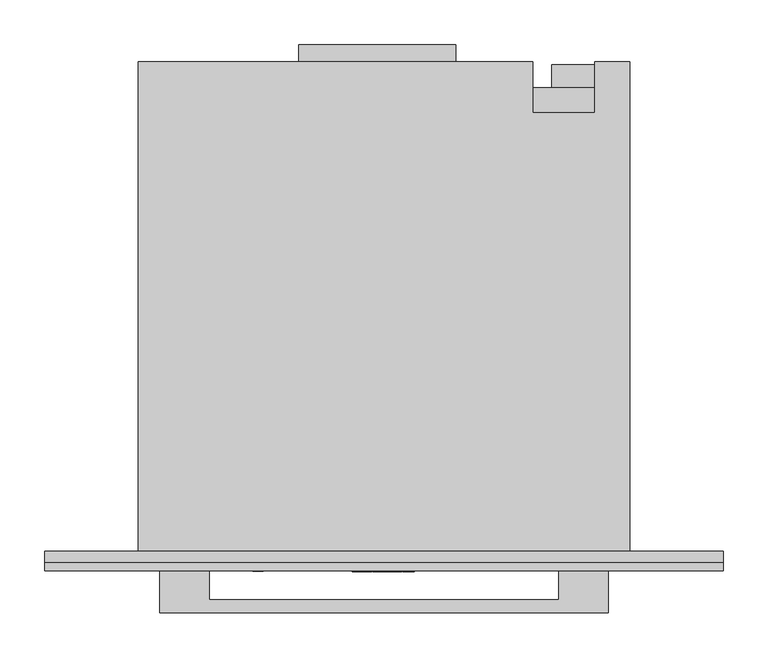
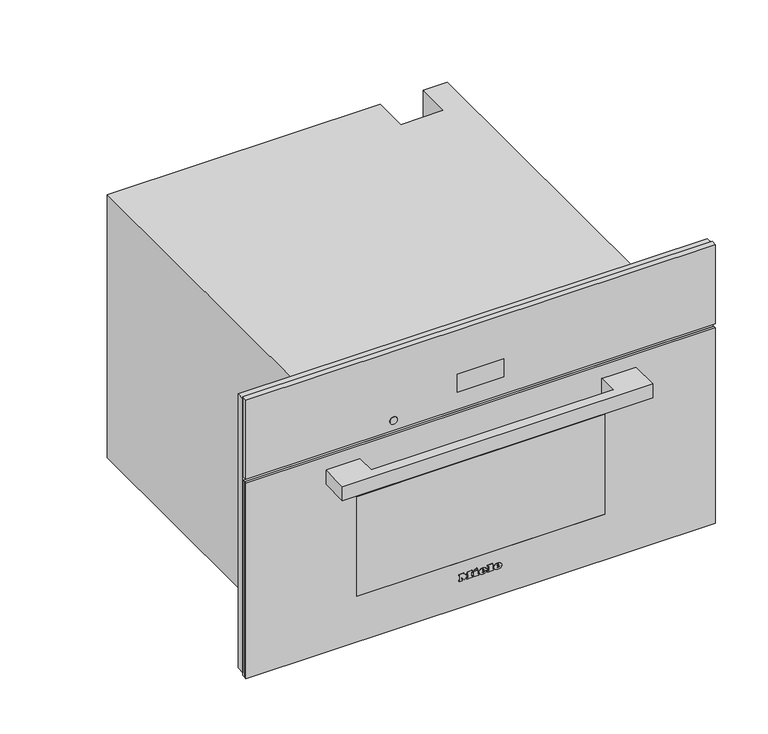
"""IFC4 building model written with IfcOpenShell, lengths in millimetres: proxy geometry, 11876250_USA_DGC7470_GRGR : 23747032_USA_11876250_DGC7470_GRGR."""

import ifcopenshell
import ifcopenshell.guid

model = None  # the IFC model being written
_history = None  # IfcOwnerHistory: only IFC2X3 demands one
_inside = {}  # id of a spatial element -> (the spatial element, [elements in it])
_under = {}  # id of a project, library or spatial element -> (it, [spatial elements below it])
_declared = {}  # id of a project -> (the project, [libraries it declares])
_typed = {}  # id of a type object -> (the type object, [elements of that type])
_made_of = {}  # id of a material, layer set ... -> (it, [elements and type objects made of it])


def new_model(schema):
    """Start an empty IFC model of exactly this schema.

    Asked for "IFC4X3", IfcOpenShell would pick the latest addendum, in which some entities
    have other attributes; the version numbers below select the first issue.
    IFC2X3 requires an IfcOwnerHistory on every rooted entity: one is made here for all.
    """
    global model, _history
    if schema == "IFC4X3":
        model = ifcopenshell.file(schema_version=(4, 3, 0, 0))
    else:
        model = ifcopenshell.file(schema=schema)
    _inside.clear()
    _under.clear()
    _declared.clear()
    _typed.clear()
    _made_of.clear()
    _history = None
    if model.schema == "IFC2X3":
        org = make("IfcOrganization", Name="unknown")
        user = make(
            "IfcPersonAndOrganization",
            ThePerson=make("IfcPerson", FamilyName="unknown"),
            TheOrganization=org,
        )
        app = make(
            "IfcApplication",
            ApplicationDeveloper=org,
            Version="unknown",
            ApplicationFullName="unknown",
            ApplicationIdentifier="unknown",
        )
        _history = make(
            "IfcOwnerHistory",
            OwningUser=user,
            OwningApplication=app,
            ChangeAction="ADDED",
            CreationDate=0,
        )
    return model


def make(cls, **values):
    """One entity of the class cls with the attributes given. An attribute that is None is left unset."""
    return model.create_entity(
        cls, **{name: value for name, value in values.items() if value is not None}
    )


def rooted(cls, **values):
    """An entity with a GlobalId (a new one), such as an element, a storey or a relation."""
    return make(cls, GlobalId=ifcopenshell.guid.new(), OwnerHistory=_history, **values)


def si_unit(unit_type, name, prefix=None):
    """IfcSIUnit, for example si_unit("LENGTHUNIT", "METRE", prefix="MILLI")."""
    return make("IfcSIUnit", UnitType=unit_type, Prefix=prefix, Name=name)


def assignment(units):
    """IfcUnitAssignment: the units of a project."""
    return None if units is None else make("IfcUnitAssignment", Units=units)


def point(xyz):
    """IfcCartesianPoint."""
    return None if xyz is None else make("IfcCartesianPoint", Coordinates=xyz)


def direction(xyz):
    """IfcDirection."""
    return None if xyz is None else make("IfcDirection", DirectionRatios=xyz)


def frame(location, z_axis=None, x_axis=None):
    """IfcAxis2Placement3D, a coordinate frame: its origin and axes. An axis left out is left unset."""
    return make(
        "IfcAxis2Placement3D",
        Location=point(location),
        Axis=direction(z_axis),
        RefDirection=direction(x_axis),
    )


def frame_2d(location, x_axis=None):
    """IfcAxis2Placement2D, a coordinate frame in the plane: its origin and x axis."""
    return make(
        "IfcAxis2Placement2D", Location=point(location), RefDirection=direction(x_axis)
    )


def origin():
    """The frame at (0, 0, 0) with its axes left unset."""
    return frame((0.0, 0.0, 0.0))


def place(relative_to, where):
    """IfcLocalPlacement: puts the frame where relative to a parent placement (None: the world)."""
    return make(
        "IfcLocalPlacement", PlacementRelTo=relative_to, RelativePlacement=where
    )


def context(
    kind, dimensions, precision=None, world=None, true_north=None, identifier=None
):
    """IfcGeometricRepresentationContext, for example the 3D "Model" context."""
    return make(
        "IfcGeometricRepresentationContext",
        ContextIdentifier=identifier,
        ContextType=kind,
        CoordinateSpaceDimension=dimensions,
        Precision=precision,
        WorldCoordinateSystem=world,
        TrueNorth=true_north,
    )


def project(units=None, contexts=None):
    """IfcProject with its units and contexts."""
    return rooted(
        "IfcProject",
        Name="project",
        RepresentationContexts=contexts,
        UnitsInContext=assignment(units),
    )


def spatial(cls, under=None, at=None, **own):
    """A site, building, storey or space (cls), placed at a placement, below another one or the project."""
    s = rooted(cls, ObjectPlacement=at, **own)
    if under is not None:
        _under.setdefault(under.id(), (under, []))[1].append(s)
    return s


def polyline(points):
    """IfcPolyline through the points."""
    return make("IfcPolyline", Points=[point(p) for p in points])


def circle_curve(where, radius):
    """IfcCircle in the frame where."""
    return make("IfcCircle", Position=where, Radius=radius)


def ellipse_curve(where, semi_axis1, semi_axis2):
    """IfcEllipse in the frame where."""
    return make(
        "IfcEllipse", Position=where, SemiAxis1=semi_axis1, SemiAxis2=semi_axis2
    )


def trimmed(basis, trim1, trim2, sense, master):
    """IfcTrimmedCurve: the piece of a basis curve between two trims."""
    return make(
        "IfcTrimmedCurve",
        BasisCurve=basis,
        Trim1=trim1,
        Trim2=trim2,
        SenseAgreement=sense,
        MasterRepresentation=master,
    )


def segment(curve, same_sense, transition):
    """IfcCompositeCurveSegment."""
    return make(
        "IfcCompositeCurveSegment",
        Transition=transition,
        SameSense=same_sense,
        ParentCurve=curve,
    )


def composite_curve(segments, self_intersect=None):
    """IfcCompositeCurve: segments joined end to end."""
    return make("IfcCompositeCurve", Segments=segments, SelfIntersect=self_intersect)


def outline(outer, holes=None, kind="AREA"):
    """IfcArbitraryClosedProfileDef: a profile drawn as a closed curve; with holes, ...WithVoids."""
    if holes is None:
        return make("IfcArbitraryClosedProfileDef", ProfileType=kind, OuterCurve=outer)
    return make(
        "IfcArbitraryProfileDefWithVoids",
        ProfileType=kind,
        OuterCurve=outer,
        InnerCurves=holes,
    )


def extrude(swept, where, along, depth):
    """IfcExtrudedAreaSolid: the profile swept, set in the frame where, extruded along a direction by depth."""
    return make(
        "IfcExtrudedAreaSolid",
        SweptArea=swept,
        Position=where,
        ExtrudedDirection=direction(along),
        Depth=depth,
    )


def faces_of(points, faces, orient=None, outer=None):
    """IfcFace entities. A face is a list of loops; a loop is a list of indices into points, from 0.

    orient and outer hold one flag for each loop. By default every Orientation is true, the
    first loop of a face is its IfcFaceOuterBound and the others are IfcFaceBound.
    """
    made = []
    for i, loops in enumerate(faces):
        bounds = []
        for j, loop in enumerate(loops):
            is_outer = j == 0 if outer is None else outer[i][j]
            bounds.append(
                make(
                    "IfcFaceOuterBound" if is_outer else "IfcFaceBound",
                    Bound=make("IfcPolyLoop", Polygon=[points[k] for k in loop]),
                    Orientation=True if orient is None else orient[i][j],
                )
            )
        made.append(make("IfcFace", Bounds=bounds))
    return made


def faceted_brep(points, faces, orient=None, outer=None, voids=None):
    """IfcFacetedBrep: a solid bounded by flat faces; with voids (closed shells), ...WithVoids."""
    shared = [point(p) for p in points]
    hull = make("IfcClosedShell", CfsFaces=faces_of(shared, faces, orient, outer))
    if voids is None:
        return make("IfcFacetedBrep", Outer=hull)
    return make(
        "IfcFacetedBrepWithVoids",
        Outer=hull,
        Voids=[
            make(cls, CfsFaces=faces_of(shared, fs, o, b)) for cls, fs, o, b in voids
        ],
    )


def shape(context_of_items, identifier, shape_type, items):
    """IfcShapeRepresentation: the items that make up one representation, for example the "Body"."""
    return make(
        "IfcShapeRepresentation",
        ContextOfItems=context_of_items,
        RepresentationIdentifier=identifier,
        RepresentationType=shape_type,
        Items=items,
    )


def source(mapping_origin, context_of_items, identifier, shape_type, items):
    """IfcRepresentationMap: a shape defined once, which mapped items show again and again."""
    return make(
        "IfcRepresentationMap",
        MappingOrigin=mapping_origin,
        MappedRepresentation=shape(context_of_items, identifier, shape_type, items),
    )


def transform(
    local_origin,
    x_axis=None,
    y_axis=None,
    z_axis=None,
    scale=None,
    scale2=None,
    scale3=None,
    uniform=True,
):
    """IfcCartesianTransformationOperator3D, or its non-uniform kind. x_axis, y_axis, z_axis: its Axis1, 2, 3."""
    if uniform:
        return make(
            "IfcCartesianTransformationOperator3D",
            Axis1=direction(x_axis),
            Axis2=direction(y_axis),
            LocalOrigin=point(local_origin),
            Scale=scale,
            Axis3=direction(z_axis),
        )
    return make(
        "IfcCartesianTransformationOperator3DnonUniform",
        Axis1=direction(x_axis),
        Axis2=direction(y_axis),
        LocalOrigin=point(local_origin),
        Scale=scale,
        Axis3=direction(z_axis),
        Scale2=scale2,
        Scale3=scale3,
    )


def mapped(mapping_source, mapping_target):
    """IfcMappedItem: shows the shape of a source again, moved by a transform."""
    return make(
        "IfcMappedItem", MappingSource=mapping_source, MappingTarget=mapping_target
    )


def made_of(thing, what):
    """Note that an element or type object is made of a material, layer set ...; save() writes the relation."""
    if what is not None:
        _made_of.setdefault(what.id(), (what, []))[1].append(thing)
    return thing


def element(
    cls,
    number,
    at=None,
    inside=None,
    cuts=None,
    type_object=None,
    material=None,
    context=None,
    identifier="Body",
    shape_type=None,
    held_by="IfcProductDefinitionShape",
    body=None,
    shapes=None,
    **own,
):
    """One element of the class cls, such as IfcWall. Its Tag is "e" and its number.

    at: its placement. inside: the storey or other place that contains it. cuts: it is an
    opening in that element (IfcRelVoidsElement). A single representation is given by context,
    identifier, shape_type and body (its items); several are given by shapes. held_by: the class
    of the entity that holds the representations. save() writes the other relations.
    """
    e = rooted(cls, Tag="e%d" % number, ObjectPlacement=at, **own)
    if body is not None:
        shapes = [shape(context, identifier, shape_type, body)]
    if shapes is not None:
        e.Representation = make(held_by, Representations=shapes)
    if inside is not None:
        _inside.setdefault(inside.id(), (inside, []))[1].append(e)
    if cuts is not None:
        rooted(
            "IfcRelVoidsElement", RelatingBuildingElement=cuts, RelatedOpeningElement=e
        )
    if type_object is not None:
        _typed.setdefault(type_object.id(), (type_object, []))[1].append(e)
    return made_of(e, material)


def aggregate(whole, parts):
    """IfcRelAggregates: a whole, such as a stair, and the parts it consists of."""
    return rooted("IfcRelAggregates", RelatingObject=whole, RelatedObjects=parts)


def save(model, path):
    """Write the relations noted so far, then the file.

    IfcRelAggregates (storeys below a building ...), IfcRelContainedInSpatialStructure (elements
    in a storey), IfcRelDefinesByType, IfcRelAssociatesMaterial and IfcRelDeclares: one each for
    every whole, place, type object, material and project.
    """
    for whole, parts in _under.values():
        aggregate(whole, parts)
    for where, things in _inside.values():
        rooted(
            "IfcRelContainedInSpatialStructure",
            RelatedElements=things,
            RelatingStructure=where,
        )
    for kind, things in _typed.values():
        rooted("IfcRelDefinesByType", RelatedObjects=things, RelatingType=kind)
    for what, things in _made_of.values():
        rooted("IfcRelAssociatesMaterial", RelatedObjects=things, RelatingMaterial=what)
    for by, libraries in _declared.values():
        rooted("IfcRelDeclares", RelatingContext=by, RelatedDefinitions=libraries)
    model.write(path)


def plane_surface(at):
    """IfcPlane: the flat surface through the origin of the frame at, square to its z axis."""
    return make("IfcPlane", Position=at)


def cylinder_surface(at, radius):
    """IfcCylindricalSurface: all points at the distance radius from the z axis of the frame at."""
    return make("IfcCylindricalSurface", Position=at, Radius=radius)


def revolved_surface(curve, axis_point, axis_direction):
    """IfcSurfaceOfRevolution: the curve turned about the line through axis_point along axis_direction."""
    return make(
        "IfcSurfaceOfRevolution",
        SweptCurve=make("IfcArbitraryOpenProfileDef", ProfileType="CURVE", Curve=curve),
        AxisPosition=make("IfcAxis1Placement", Location=point(axis_point), Axis=direction(axis_direction)),
    )


def extruded_surface(curve, direction_of_extrusion, depth):
    """IfcSurfaceOfLinearExtrusion: the curve pushed along a direction by depth."""
    return make(
        "IfcSurfaceOfLinearExtrusion",
        SweptCurve=make("IfcArbitraryOpenProfileDef", ProfileType="CURVE", Curve=curve),
        ExtrudedDirection=direction(direction_of_extrusion),
        Depth=depth,
    )


def advanced_brep(points, edges, surfaces, faces):
    """IfcAdvancedBrep: a solid bounded by faces that lie on surfaces and meet in shared edges.

    An edge is (start, end): straight between two places in points (the first is 0);
    or (start, end, curve); or (start, end, curve, False) where it runs against its curve.
    A face is (place in surfaces, loops), or (place, loops, False) where it looks against
    its surface's normal. A loop lists edges by number (the first is 1), with a minus sign
    where the edge is run from its end to its start. The first loop is the outer one.
    """
    corners = [point(p) for p in points]
    vertices = [make("IfcVertexPoint", VertexGeometry=c) for c in corners]
    made = []
    for start, end, *more in edges:
        made.append(
            make(
                "IfcEdgeCurve",
                EdgeStart=vertices[start],
                EdgeEnd=vertices[end],
                EdgeGeometry=more[0] if more else make("IfcPolyline", Points=[corners[start], corners[end]]),
                SameSense=more[1] if len(more) > 1 else True,
            )
        )
    hull = []
    for where, loops, *sense in faces:
        bounds = []
        for j, loop in enumerate(loops):
            ring = [make("IfcOrientedEdge", EdgeElement=made[abs(k) - 1], Orientation=k > 0) for k in loop]
            bounds.append(
                make(
                    "IfcFaceOuterBound" if j == 0 else "IfcFaceBound",
                    Bound=make("IfcEdgeLoop", EdgeList=ring),
                    Orientation=True,
                )
            )
        hull.append(make("IfcAdvancedFace", Bounds=bounds, FaceSurface=surfaces[where], SameSense=sense[0] if sense else True))
    return make("IfcAdvancedBrep", Outer=make("IfcClosedShell", CfsFaces=hull))


def specialty_equipment_d32a2233(model_context):
    return source(origin(), model_context, "Body", "SolidModel", [
        faceted_brep([(378.5, -13.0, 476.0), (-378.5, -13.0, 476.0), (-378.5, -13.0, 9.0), (-272.5, -13.0, 9.0), (-272.5, -13.0, 344.0), (272.5, -13.0, 344.0), (272.5, -13.0, 9.0), (378.5, -13.0, 9.0), (378.5, 0.0, 476.0), (378.5, 0.0, 9.0), (-378.5, 0.0, 9.0), (-378.5, 0.0, 476.0), (231.0, 0.0, 58.0), (231.0, 0.0, 286.0), (-231.0, 0.0, 286.0), (-231.0, 0.0, 58.0), (272.5, -5.0, 9.0), (-272.5, -5.0, 9.0), (-272.5, -5.0, 344.0), (272.5, -5.0, 344.0), (231.0, -5.0, 286.0), (231.0, -5.0, 58.0), (-231.0, -5.0, 58.0), (-231.0, -5.0, 286.0)], [[[0, 1, 2, 3, 4, 5, 6, 7]], [[8, 9, 10, 11], [12, 13, 14, 15]], [[1, 0, 8, 11]], [[2, 1, 11, 10]], [[10, 9, 7, 6, 16, 17, 3, 2]], [[0, 7, 9, 8]], [[18, 19, 5, 4]], [[18, 4, 3, 17]], [[5, 19, 16, 6]], [[19, 18, 17, 16], [20, 21, 22, 23]], [[20, 13, 12, 21]], [[21, 12, 15, 22]], [[22, 15, 14, 23]], [[13, 20, 23, 14]]]),
        extrude(outline(polyline([(-95.0, 565.0), (80.0, 565.0), (80.0, 546.0), (-95.0, 546.0), (-95.0, 565.0)])), frame((0.0, 0.0, 260.0), z_axis=(0.0, 0.0, 1.0), x_axis=(1.0, 0.0, 0.0)), (0.0, 0.0, 1.0), 1.0),
        extrude(outline(polyline([(224.8383288, 537.0), (231.1236409, 537.0), (231.1236409, 526.9492425), (229.8571792, 526.9492425), (229.8571792, 535.7409796), (224.8383288, 535.7409796), (224.8383288, 537.0)])), frame((0.0, 0.0, 132.0), z_axis=(0.0, 0.0, 1.0), x_axis=(1.0, 0.0, 0.0)), (0.0, 0.0, 1.0), 1.0),
        extrude(outline(polyline([(233.0, 537.0), (240.3797826, 537.0), (240.3797826, 526.9503529), (233.15422, 526.9503529), (233.15422, 528.220938), (239.1355215, 528.220938), (239.1355215, 531.1975645), (233.4863097, 531.1975645), (233.4863097, 532.449242), (239.1355215, 532.449242), (239.1355215, 535.7448633), (233.0, 535.7448633), (233.0, 537.0)])), frame((0.0, 0.0, 132.0), z_axis=(0.0, 0.0, 1.0), x_axis=(1.0, 0.0, 0.0)), (0.0, 0.0, 1.0), 1.0),
        extrude(outline(composite_curve([segment(trimmed(circle_curve(frame_2d((233.0, 532.0)), 7.5), [point((225.5, 532.0))], [point((240.5, 532.0))], False, "CARTESIAN"), True, "CONTINUOUS"), segment(trimmed(circle_curve(frame_2d((233.0, 532.0)), 7.5), [point((240.5, 532.0))], [point((225.5, 532.0))], False, "CARTESIAN"), True, "CONTINUOUS")], self_intersect=False)), frame((0.0, 0.0, 133.0), z_axis=(0.0, 0.0, 1.0), x_axis=(1.0, 0.0, 0.0)), (0.0, 0.0, 1.0), 30.0),
        extrude(outline(polyline([(266.0, 517.0), (187.0, 517.0), (187.0, 543.0), (266.0, 543.0), (266.0, 517.0)])), frame((0.0, 0.0, 163.0), z_axis=(0.0, 0.0, 1.0), x_axis=(1.0, 0.0, 0.0)), (0.0, 0.0, 1.0), 111.0),
        faceted_brep([(-274.0, 546.0, 0.0), (-274.0, 546.0, 448.0), (166.0, 546.0, 448.0), (166.0, 546.0, 0.0), (235.0, 546.0, 448.0), (274.0, 546.0, 448.0), (274.0, 546.0, 338.0), (235.0, 546.0, 338.0), (274.0, 0.0, 448.0), (-274.0, 0.0, 448.0), (-274.0, 0.0, 0.0), (274.0, 0.0, 0.0), (231.0, 0.0, 286.0), (231.0, 0.0, 58.0), (-231.0, 0.0, 58.0), (-231.0, 0.0, 286.0), (235.0, 489.0, 448.0), (166.0, 489.0, 448.0), (166.0, 517.0, 0.0), (274.0, 517.0, 0.0), (274.0, 517.0, 338.0), (231.0, 411.0, 286.0), (-231.0, 411.0, 286.0), (-231.0, 411.0, 58.0), (231.0, 411.0, 58.0), (235.0, 489.0, 337.0), (166.0, 489.0, 337.0), (166.0, 517.0, 337.0), (235.0, 517.0, 337.0), (235.0, 517.0, 338.0)], [[[0, 1, 2, 3]], [[4, 5, 6, 7]], [[8, 9, 10, 11], [12, 13, 14, 15]], [[9, 8, 5, 4, 16, 17, 2, 1]], [[1, 0, 10, 9]], [[11, 10, 0, 3, 18, 19]], [[8, 11, 19, 20, 6, 5]], [[21, 22, 23, 24]], [[21, 24, 13, 12]], [[24, 23, 14, 13]], [[23, 22, 15, 14]], [[22, 21, 12, 15]], [[16, 25, 26, 17]], [[17, 26, 27, 18, 3, 2]], [[26, 25, 28, 27]], [[25, 16, 4, 7, 29, 28]], [[29, 20, 19, 18, 27, 28]], [[20, 29, 7, 6]]]),
        advanced_brep(
        [(26.2998, -23.0, 52.7018), (26.2998, -23.0, 53.8532), (33.9264, -23.0, 53.8532), (20.6568, -23.0, 53.8532), (23.7918, -23.0, 50.0), (33.7326, -23.0, 52.7018), (30.2898, -23.0, 52.7018), (27.5766, -23.0, 51.425), (26.2998, -23.0, 55.3124), (26.2998, -23.0, 56.555), (28.2492, -23.0, 56.555), (28.2492, -23.0, 55.3124), (26.2998, -22.0, 52.7018), (27.5766, -22.0, 51.425), (30.2898, -22.0, 52.7018), (33.7326, -22.0, 52.7018), (23.7918, -22.0, 50.0), (20.6568, -22.0, 53.8532), (33.9264, -22.0, 53.8532), (26.2998, -22.0, 53.8532), (26.2998, -22.0, 55.3124), (28.2492, -22.0, 55.3124), (28.2492, -22.0, 56.555), (26.2998, -22.0, 56.555)],
        [
            (0, 1),
            (1, 2),
            (2, 3, ellipse_curve(frame((27.2916, -23.0, 53.8532), z_axis=(0.0, -1.0, 0.0), x_axis=(-1.0, 0.0, 0.0)), 6.6348, 5.4834)),
            (3, 4, circle_curve(frame((25.0686622, -23.0, 54.2408), z_axis=(0.0, -1.0, 0.0), x_axis=(0.0, 0.0, -1.0)), 4.4288556)),
            (4, 5, circle_curve(frame((27.1587808, -23.0, 57.2504), z_axis=(0.0, -1.0, 0.0), x_axis=(0.0, 0.0, -1.0)), 7.9940516)),
            (5, 6),
            (6, 7, circle_curve(frame((28.1338588, -23.0, 53.762), z_axis=(0.0, 1.0, 0.0), x_axis=(0.0, 0.0, -1.0)), 2.4025208)),
            (7, 0, circle_curve(frame((27.5766, -23.0, 52.7018), z_axis=(0.0, 1.0, 0.0), x_axis=(0.0, 0.0, -1.0)), 1.2768)),
            (8, 9),
            (9, 10, circle_curve(frame((27.2745, -23.0, 56.555), z_axis=(0.0, 1.0, 0.0), x_axis=(0.0, 0.0, -1.0)), 0.9747)),
            (10, 11),
            (11, 8),
            (12, 13, circle_curve(frame((27.5766, -22.0, 52.7018), z_axis=(0.0, -1.0, 0.0), x_axis=(0.0, 0.0, -1.0)), 1.2768)),
            (13, 14, circle_curve(frame((28.1338588, -22.0, 53.762), z_axis=(0.0, -1.0, 0.0), x_axis=(0.0, 0.0, -1.0)), 2.4025208)),
            (14, 15),
            (15, 16, circle_curve(frame((27.1587808, -22.0, 57.2504), z_axis=(0.0, 1.0, 0.0), x_axis=(0.0, 0.0, -1.0)), 7.9940516)),
            (16, 17, circle_curve(frame((25.0686622, -22.0, 54.2408), z_axis=(0.0, 1.0, 0.0), x_axis=(0.0, 0.0, -1.0)), 4.4288556)),
            (17, 18, ellipse_curve(frame((27.2916, -22.0, 53.8532), z_axis=(0.0, 1.0, 0.0), x_axis=(-1.0, 0.0, 0.0)), 6.6348, 5.4834)),
            (18, 19),
            (19, 12),
            (20, 21),
            (21, 22),
            (22, 23, circle_curve(frame((27.2745, -22.0, 56.555), z_axis=(0.0, -1.0, 0.0), x_axis=(0.0, 0.0, -1.0)), 0.9747)),
            (23, 20),
            (0, 12),
            (19, 1),
            (18, 2),
            (5, 15),
            (14, 6),
            (17, 3),
            (13, 7),
            (16, 4),
            (8, 20),
            (23, 9),
            (22, 10),
            (21, 11),
        ],
        [
            plane_surface(frame((26.2998, -23.0, 53.8532), z_axis=(0.0, -1.0, 0.0), x_axis=(0.0, 0.0, 1.0))),
            plane_surface(frame((26.2998, -22.0, 53.8532), z_axis=(0.0, 1.0, 0.0), x_axis=(0.0, 0.0, -1.0))),
            plane_surface(frame((26.2998, -23.0, 52.7018), z_axis=(1.0, 0.0, 0.0), x_axis=(0.0, 1.0, 0.0))),
            plane_surface(frame((26.2998, -23.0, 53.8532), z_axis=(0.0, 0.0, -1.0), x_axis=(0.0, 1.0, 0.0))),
            plane_surface(frame((33.7326, -23.0, 52.7018), z_axis=(0.0, 0.0, 1.0), x_axis=(0.0, 1.0, 0.0))),
            extruded_surface(trimmed(ellipse_curve(frame((27.2916, -21.0, 53.8532), z_axis=(0.0, -1.0, 0.0), x_axis=(-1.0, 0.0, 0.0)), 6.6348, 5.4834), [point((33.9264, -21.0, 53.8532))], [point((20.6568, -21.0, 53.8532))], True, "CARTESIAN"), (0.0, -1.0, 0.0), 1.0),
            revolved_surface(polyline([(28.1338588, -22.0, 51.3594792), (28.1338588, -23.0, 51.3594792)]), (28.1338588, -22.0, 53.762), (0.0, 1.0, 0.0)),
            revolved_surface(polyline([(27.5766, -22.0, 51.425), (27.5766, -23.0, 51.425)]), (27.5766, -22.0, 52.7018), (0.0, 1.0, 0.0)),
            cylinder_surface(frame((25.0686622, -22.0, 54.2408), z_axis=(0.0, -1.0, 0.0), x_axis=(0.0, 0.0, -1.0)), 4.4288556),
            cylinder_surface(frame((27.1587808, -22.0, 57.2504), z_axis=(0.0, -1.0, 0.0), x_axis=(0.0, 0.0, -1.0)), 7.9940516),
            plane_surface(frame((26.2998, -23.0, 55.3124), z_axis=(1.0, 0.0, 0.0), x_axis=(0.0, 1.0, 0.0))),
            revolved_surface(polyline([(27.2745, -22.0, 55.5803), (27.2745, -23.0, 55.5803)]), (27.2745, -22.0, 56.555), (0.0, 1.0, 0.0)),
            plane_surface(frame((28.2492, -23.0, 56.555), z_axis=(-1.0, 0.0, 0.0), x_axis=(0.0, 1.0, 0.0))),
            plane_surface(frame((28.2492, -23.0, 55.3124), z_axis=(0.0, 0.0, 1.0), x_axis=(0.0, 1.0, 0.0))),
        ],
        [
            (0, [[1, 2, 3, 4, 5, 6, 7, 8], [9, 10, 11, 12]]),
            (1, [[13, 14, 15, 16, 17, 18, 19, 20], [21, 22, 23, 24]]),
            (2, [[-1, 25, -20, 26]]),
            (3, [[-2, -26, -19, 27]]),
            (4, [[-6, 28, -15, 29]]),
            (5, [[-3, -27, -18, 30]]),
            (6, [[-7, -29, -14, 31]]),
            (7, [[-8, -31, -13, -25]]),
            (8, [[-4, -30, -17, 32]]),
            (9, [[-5, -32, -16, -28]]),
            (10, [[-9, 33, -24, 34]]),
            (11, [[-10, -34, -23, 35]]),
            (12, [[-11, -35, -22, 36]]),
            (13, [[-12, -36, -21, -33]]),
        ],
    ),
        advanced_brep(
        [(2.508, -23.0, 52.7018), (2.508, -23.0, 53.8532), (10.1346, -23.0, 53.8532), (-3.135, -23.0, 53.8532), (0.0, -23.0, 50.0), (9.9408, -23.0, 52.7018), (6.498, -23.0, 52.7018), (3.7848, -23.0, 51.425), (2.508, -23.0, 55.3124), (2.508, -23.0, 56.555), (4.4574, -23.0, 56.555), (4.4574, -23.0, 55.3124), (2.508, -22.0, 52.7018), (3.7848, -22.0, 51.425), (6.498, -22.0, 52.7018), (9.9408, -22.0, 52.7018), (0.0, -22.0, 50.0), (-3.135, -22.0, 53.8532), (10.1346, -22.0, 53.8532), (2.508, -22.0, 53.8532), (2.508, -22.0, 55.3124), (4.4574, -22.0, 55.3124), (4.4574, -22.0, 56.555), (2.508, -22.0, 56.555)],
        [
            (0, 1),
            (1, 2),
            (2, 3, ellipse_curve(frame((3.4998, -23.0, 53.8532), z_axis=(0.0, -1.0, 0.0), x_axis=(-1.0, 0.0, 0.0)), 6.6348, 5.4834)),
            (3, 4, circle_curve(frame((1.2768622, -23.0, 54.2408), z_axis=(0.0, -1.0, 0.0), x_axis=(0.0, 0.0, -1.0)), 4.4288556)),
            (4, 5, circle_curve(frame((3.3669808, -23.0, 57.2504), z_axis=(0.0, -1.0, 0.0), x_axis=(0.0, 0.0, -1.0)), 7.9940516)),
            (5, 6),
            (6, 7, circle_curve(frame((4.3420588, -23.0, 53.762), z_axis=(0.0, 1.0, 0.0), x_axis=(0.0, 0.0, -1.0)), 2.4025208)),
            (7, 0, circle_curve(frame((3.7848, -23.0, 52.7018), z_axis=(0.0, 1.0, 0.0), x_axis=(0.0, 0.0, -1.0)), 1.2768)),
            (8, 9),
            (9, 10, circle_curve(frame((3.4827, -23.0, 56.555), z_axis=(0.0, 1.0, 0.0), x_axis=(0.0, 0.0, -1.0)), 0.9747)),
            (10, 11),
            (11, 8),
            (12, 13, circle_curve(frame((3.7848, -22.0, 52.7018), z_axis=(0.0, -1.0, 0.0), x_axis=(0.0, 0.0, -1.0)), 1.2768)),
            (13, 14, circle_curve(frame((4.3420588, -22.0, 53.762), z_axis=(0.0, -1.0, 0.0), x_axis=(0.0, 0.0, -1.0)), 2.4025208)),
            (14, 15),
            (15, 16, circle_curve(frame((3.3669808, -22.0, 57.2504), z_axis=(0.0, 1.0, 0.0), x_axis=(0.0, 0.0, -1.0)), 7.9940516)),
            (16, 17, circle_curve(frame((1.2768622, -22.0, 54.2408), z_axis=(0.0, 1.0, 0.0), x_axis=(0.0, 0.0, -1.0)), 4.4288556)),
            (17, 18, ellipse_curve(frame((3.4998, -22.0, 53.8532), z_axis=(0.0, 1.0, 0.0), x_axis=(-1.0, 0.0, 0.0)), 6.6348, 5.4834)),
            (18, 19),
            (19, 12),
            (20, 21),
            (21, 22),
            (22, 23, circle_curve(frame((3.4827, -22.0, 56.555), z_axis=(0.0, -1.0, 0.0), x_axis=(0.0, 0.0, -1.0)), 0.9747)),
            (23, 20),
            (0, 12),
            (19, 1),
            (18, 2),
            (5, 15),
            (14, 6),
            (17, 3),
            (13, 7),
            (16, 4),
            (8, 20),
            (23, 9),
            (22, 10),
            (21, 11),
        ],
        [
            plane_surface(frame((2.508, -23.0, 53.8532), z_axis=(0.0, -1.0, 0.0), x_axis=(0.0, 0.0, 1.0))),
            plane_surface(frame((2.508, -22.0, 53.8532), z_axis=(0.0, 1.0, 0.0), x_axis=(0.0, 0.0, -1.0))),
            plane_surface(frame((2.508, -23.0, 52.7018), z_axis=(1.0, 0.0, 0.0), x_axis=(0.0, 1.0, 0.0))),
            plane_surface(frame((2.508, -23.0, 53.8532), z_axis=(0.0, 0.0, -1.0), x_axis=(0.0, 1.0, 0.0))),
            plane_surface(frame((9.9408, -23.0, 52.7018), z_axis=(0.0, 0.0, 1.0), x_axis=(0.0, 1.0, 0.0))),
            extruded_surface(trimmed(ellipse_curve(frame((3.4998, -21.0, 53.8532), z_axis=(0.0, -1.0, 0.0), x_axis=(-1.0, 0.0, 0.0)), 6.6348, 5.4834), [point((10.1346, -21.0, 53.8532))], [point((-3.135, -21.0, 53.8532))], True, "CARTESIAN"), (0.0, -1.0, 0.0), 1.0),
            revolved_surface(polyline([(4.3420588, -22.0, 51.3594792), (4.3420588, -23.0, 51.3594792)]), (4.3420588, -22.0, 53.762), (0.0, 1.0, 0.0)),
            revolved_surface(polyline([(3.7848, -22.0, 51.425), (3.7848, -23.0, 51.425)]), (3.7848, -22.0, 52.7018), (0.0, 1.0, 0.0)),
            cylinder_surface(frame((1.2768622, -22.0, 54.2408), z_axis=(0.0, -1.0, 0.0), x_axis=(0.0, 0.0, -1.0)), 4.4288556),
            cylinder_surface(frame((3.3669808, -22.0, 57.2504), z_axis=(0.0, -1.0, 0.0), x_axis=(0.0, 0.0, -1.0)), 7.9940516),
            plane_surface(frame((2.508, -23.0, 55.3124), z_axis=(1.0, 0.0, 0.0), x_axis=(0.0, 1.0, 0.0))),
            revolved_surface(polyline([(3.4827, -22.0, 55.5803), (3.4827, -23.0, 55.5803)]), (3.4827, -22.0, 56.555), (0.0, 1.0, 0.0)),
            plane_surface(frame((4.4574, -23.0, 56.555), z_axis=(-1.0, 0.0, 0.0), x_axis=(0.0, 1.0, 0.0))),
            plane_surface(frame((4.4574, -23.0, 55.3124), z_axis=(0.0, 0.0, 1.0), x_axis=(0.0, 1.0, 0.0))),
        ],
        [
            (0, [[1, 2, 3, 4, 5, 6, 7, 8], [9, 10, 11, 12]]),
            (1, [[13, 14, 15, 16, 17, 18, 19, 20], [21, 22, 23, 24]]),
            (2, [[-1, 25, -20, 26]]),
            (3, [[-2, -26, -19, 27]]),
            (4, [[-6, 28, -15, 29]]),
            (5, [[-3, -27, -18, 30]]),
            (6, [[-7, -29, -14, 31]]),
            (7, [[-8, -31, -13, -25]]),
            (8, [[-4, -30, -17, 32]]),
            (9, [[-5, -32, -16, -28]]),
            (10, [[-9, 33, -24, 34]]),
            (11, [[-10, -34, -23, 35]]),
            (12, [[-11, -35, -22, 36]]),
            (13, [[-12, -36, -21, -33]]),
        ],
    ),
        extrude(outline(polyline([(60.7274, -9.9522), (58.8806, -9.0858), (60.6818, -5.2212), (62.5286, -6.0762), (60.7274, -9.9522)])), frame((0.0, -23.0, 0.0), z_axis=(0.0, 1.0, 0.0), x_axis=(0.0, 0.0, 1.0)), (0.0, 0.0, 1.0), 1.0),
        extrude(outline(polyline([(58.6298, -12.768), (56.5892, -12.768), (56.5892, -11.4114), (51.9152, -11.4114), (51.9152, -12.768), (50.0, -12.768), (50.0, -3.7734), (51.9152, -3.7734), (51.9152, -5.0958), (58.6298, -5.0958), (58.6298, -12.768)])), frame((0.0, -23.0, 0.0), z_axis=(0.0, 1.0, 0.0), x_axis=(0.0, 0.0, 1.0)), (0.0, 0.0, 1.0), 1.0),
        extrude(outline(polyline([(59.5418, 10.773), (59.5418, 12.141), (51.9152, 12.141), (51.9152, 10.773), (50.0, 10.773), (50.0, 20.0184), (51.9152, 20.0184), (51.9152, 18.6162), (61.4, 18.6162), (61.4, 10.773), (59.5418, 10.773)])), frame((0.0, -23.0, 0.0), z_axis=(0.0, 1.0, 0.0), x_axis=(0.0, 0.0, 1.0)), (0.0, 0.0, 1.0), 1.0),
        extrude(outline(polyline([(59.5418, -35.4882), (59.5418, -34.1088), (51.9152, -34.1088), (51.9152, -35.4882), (50.0, -35.4882), (50.0, -30.4722), (51.9152, -30.4722), (51.9152, -31.8402), (56.7429247, -31.8402), (50.0, -26.7444), (56.9402223, -21.6258), (51.9152, -21.6258), (51.9152, -23.028), (50.0, -23.028), (50.0, -13.9308), (51.9152, -13.9308), (51.9152, -15.3786), (59.5418, -15.3786), (59.5418, -13.9308), (61.4, -13.9308), (61.4, -20.8734), (57.125, -24.2022), (61.4, -27.5424), (61.4, -35.4882), (59.5418, -35.4882)])), frame((0.0, -23.0, 0.0), z_axis=(0.0, 1.0, 0.0), x_axis=(0.0, 0.0, 1.0)), (0.0, 0.0, 1.0), 1.0),
        extrude(outline(composite_curve([segment(trimmed(circle_curve(frame_2d((361.0, -140.5745637)), 6.0), [point((361.0, -146.5745637))], [point((361.0, -134.5745637))], False, "CARTESIAN"), True, "CONTINUOUS"), segment(trimmed(circle_curve(frame_2d((361.0, -140.5745637)), 6.0), [point((361.0, -134.5745637))], [point((361.0, -146.5745637))], False, "CARTESIAN"), True, "CONTINUOUS")], self_intersect=False)), frame((0.0, -22.5, 0.0), z_axis=(0.0, 1.0, 0.0), x_axis=(0.0, 0.0, 1.0)), (0.0, 0.0, 1.0), 1.0),
        extrude(outline(polyline([(-37.5, -21.0), (37.5, -21.0), (37.5, -22.0), (-37.5, -22.0), (-37.5, -21.0)])), frame((0.0, 0.0, 373.0), z_axis=(0.0, 0.0, 1.0), x_axis=(1.0, 0.0, 0.0)), (0.0, 0.0, 1.0), 30.5),
        faceted_brep([(378.5, -22.0, 479.0), (-378.5, -22.0, 479.0), (-378.5, -22.0, 344.0), (378.5, -22.0, 344.0), (37.5, -22.0, 403.5), (37.5, -22.0, 373.0), (-37.5, -22.0, 373.0), (-37.5, -22.0, 403.5), (378.5, -13.0, 479.0), (378.5, -13.0, 344.0), (-378.5, -13.0, 344.0), (-378.5, -13.0, 479.0), (37.5, -21.0, 403.5), (-37.5, -21.0, 403.5), (-37.5, -21.0, 373.0), (37.5, -21.0, 373.0)], [[[0, 1, 2, 3], [4, 5, 6, 7]], [[8, 9, 10, 11]], [[1, 0, 8, 11]], [[2, 1, 11, 10]], [[3, 2, 10, 9]], [[0, 3, 9, 8]], [[12, 13, 14, 15]], [[12, 15, 5, 4]], [[15, 14, 6, 5]], [[14, 13, 7, 6]], [[13, 12, 4, 7]]]),
        extrude(outline(polyline([(200.0, -22.0), (-200.0, -22.0), (-200.0, -18.0), (200.0, -18.0), (200.0, -22.0)])), frame((0.0, 0.0, 82.0), z_axis=(0.0, 0.0, 1.0), x_axis=(1.0, 0.0, 0.0)), (0.0, 0.0, 1.0), 170.0),
        extrude(outline(polyline([(337.0, 378.5), (337.0, -378.5), (4.0, -378.5), (4.0, 378.5), (337.0, 378.5)]), holes=[polyline([(252.0, -200.0), (252.0, 200.0), (82.0, 200.0), (82.0, -200.0), (252.0, -200.0)])]), frame((0.0, -22.0, 0.0), z_axis=(0.0, 1.0, 0.0), x_axis=(0.0, 0.0, 1.0)), (0.0, 0.0, 1.0), 4.0),
        extrude(outline(polyline([(-250.0, -69.0), (-250.0, -22.0), (-195.0, -22.0), (-195.0, -54.0), (195.0, -54.0), (195.0, -22.0), (250.0, -22.0), (250.0, -69.0), (-250.0, -69.0)])), frame((0.0, 0.0, 291.0), z_axis=(0.0, 0.0, 1.0), x_axis=(1.0, 0.0, 0.0)), (0.0, 0.0, 1.0), 24.0),
        extrude(outline(polyline([(378.5, -18.0), (-378.5, -18.0), (-378.5, -13.0), (378.5, -13.0), (378.5, -18.0)])), frame((0.0, 0.0, 4.0), z_axis=(0.0, 0.0, 1.0), x_axis=(1.0, 0.0, 0.0)), (0.0, 0.0, 1.0), 333.0),
    ])


if __name__ == "__main__":
    model = new_model("IFC4")
    model_context = context("Model", 3, world=origin())
    ifc_project = project(units=[si_unit("LENGTHUNIT", "METRE", prefix="MILLI")], contexts=[model_context])
    site = spatial("IfcSite", under=ifc_project)
    building = spatial("IfcBuilding", under=site)
    placement = place(None, origin())
    specialty_equipment_shape = specialty_equipment_d32a2233(model_context)
    element("IfcBuildingElementProxy", 1, Name="11876250_USA_DGC7470_GRGR : 23747032_USA_11876250_DGC7470_GRGR", ObjectType="11876250_USA_DGC7470_GRGR : 23747032_USA_11876250_DGC7470_GRGR", at=placement, inside=building, context=model_context, shape_type="MappedRepresentation", body=[
        mapped(specialty_equipment_shape, transform((0.0, 0.0, 0.0), x_axis=(1.0, 0.0, 0.0), y_axis=(0.0, 1.0, 0.0), z_axis=(0.0, 0.0, 1.0))),
    ])
    save(model, "model.ifc")
